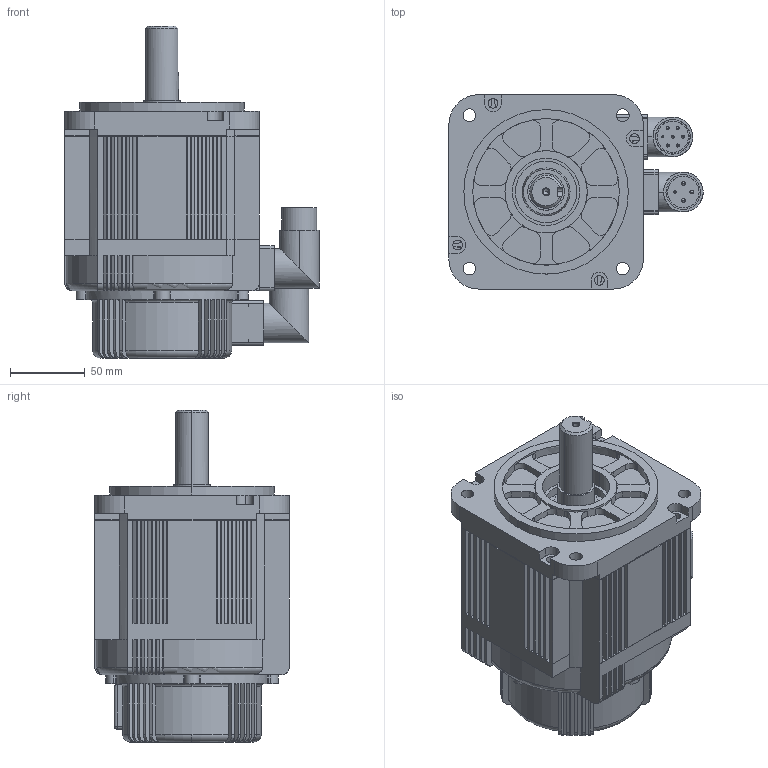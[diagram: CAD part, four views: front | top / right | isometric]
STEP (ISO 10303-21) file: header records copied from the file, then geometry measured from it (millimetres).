
FILE_DESCRIPTION (( 'STEP AP203' ), '1' );
FILE_NAME ('ACM13013H2F.STEP', '2021-04-02T09:16:13', ( '謂矨栲' ), ( 'Microsoft' ), 'SwSTEP 2.0', 'SolidWorks 2014', '' );
FILE_SCHEMA (( 'CONFIG_CONTROL_DESIGN' ));
Length unit declared in the file: millimetre
Products named in the file (1): ACM13013H2F
Bounding box: 170 x 130 x 222 mm (x, y, z)
Volume: 2173968.8 mm3; surface area: 190773.9 mm2
Topology: 1 solids, 1 shells, 778 faces, 2166 edges, 1408 vertices
Faces by surface type: plane 414, cylinder 289, torus 44, sphere 23, cone 8
Entity records: 26294 total; most frequent: CARTESIAN_POINT 6170, DIRECTION 4256, ORIENTED_EDGE 4238, EDGE_CURVE 2119, AXIS2_PLACEMENT_3D 1518, VERTEX_POINT 1386, VECTOR 1220, LINE 1220
